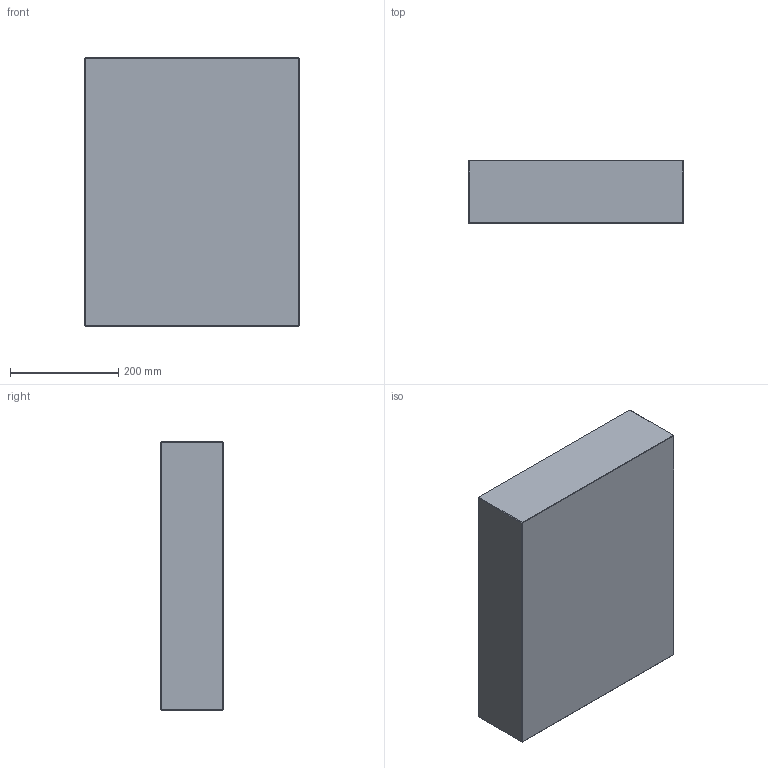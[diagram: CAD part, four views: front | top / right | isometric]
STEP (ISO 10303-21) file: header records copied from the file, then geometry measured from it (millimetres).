
FILE_DESCRIPTION (( 'STEP AP214' ), '1' );
FILE_NAME ('PC-P-396x496x116.STEP', '2020-04-01T10:44:12', ( 'August' ), ( '' ), 'SwSTEP 2.0', 'SolidWorks 2018', '' );
FILE_SCHEMA (( 'AUTOMOTIVE_DESIGN' ));
Length unit declared in the file: millimetre
Products named in the file (1): PC-P-396x496x116
Bounding box: 396 x 116 x 496 mm (x, y, z)
Volume: 22782245.3 mm3; surface area: 597411.1 mm2
Topology: 1 solids, 1 shells, 26 faces, 48 edges, 24 vertices
Faces by surface type: plane 26
Entity records: 634 total; most frequent: DIRECTION 102, CARTESIAN_POINT 99, ORIENTED_EDGE 96, EDGE_CURVE 48, LINE 48, VECTOR 48, AXIS2_PLACEMENT_3D 27, FACE_OUTER_BOUND 26
